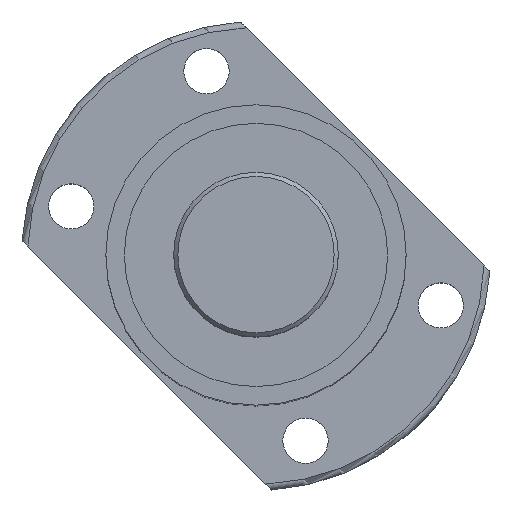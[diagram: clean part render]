
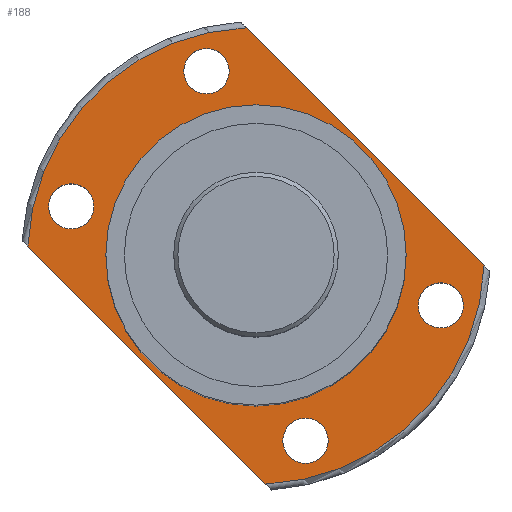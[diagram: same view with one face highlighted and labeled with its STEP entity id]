
A CAD part, top view. The second image highlights one B-rep face of the part: STEP entity #188.
In plain terms, the highlighted planar face has unit normal (0, 0, 1) as drawn and (1, 0, 0) by its records, which use the part's own axes.
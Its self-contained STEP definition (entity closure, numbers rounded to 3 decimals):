
#123=LINE('',#1357,#131);
#124=LINE('',#1362,#132);
#131=VECTOR('',#1021,1.);
#132=VECTOR('',#1024,1.);
#153=PLANE('',#856);
#188=ADVANCED_FACE('',(#289,#290,#291,#292,#293,#294),#153,.T.);
#289=FACE_BOUND('',#390,.T.);
#290=FACE_BOUND('',#391,.T.);
#291=FACE_BOUND('',#392,.T.);
#292=FACE_BOUND('',#393,.T.);
#293=FACE_BOUND('',#394,.T.);
#294=FACE_BOUND('',#395,.T.);
#390=EDGE_LOOP('',(#506));
#391=EDGE_LOOP('',(#507));
#392=EDGE_LOOP('',(#508));
#393=EDGE_LOOP('',(#509));
#394=EDGE_LOOP('',(#510));
#395=EDGE_LOOP('',(#511,#512,#513,#514));
#506=ORIENTED_EDGE('',*,*,#676,.F.);
#507=ORIENTED_EDGE('',*,*,#704,.F.);
#508=ORIENTED_EDGE('',*,*,#705,.F.);
#509=ORIENTED_EDGE('',*,*,#706,.F.);
#510=ORIENTED_EDGE('',*,*,#707,.F.);
#511=ORIENTED_EDGE('',*,*,#708,.T.);
#512=ORIENTED_EDGE('',*,*,#709,.T.);
#513=ORIENTED_EDGE('',*,*,#710,.T.);
#514=ORIENTED_EDGE('',*,*,#711,.T.);
#610=VERTEX_POINT('',#1160);
#638=VERTEX_POINT('',#1350);
#639=VERTEX_POINT('',#1352);
#640=VERTEX_POINT('',#1354);
#641=VERTEX_POINT('',#1356);
#642=VERTEX_POINT('',#1358);
#643=VERTEX_POINT('',#1359);
#644=VERTEX_POINT('',#1361);
#645=VERTEX_POINT('',#1363);
#676=EDGE_CURVE('',#610,#610,#750,.T.);
#704=EDGE_CURVE('',#638,#638,#772,.T.);
#705=EDGE_CURVE('',#639,#639,#773,.T.);
#706=EDGE_CURVE('',#640,#640,#774,.T.);
#707=EDGE_CURVE('',#641,#641,#775,.T.);
#708=EDGE_CURVE('',#642,#643,#123,.T.);
#709=EDGE_CURVE('',#643,#644,#776,.T.);
#710=EDGE_CURVE('',#644,#645,#124,.T.);
#711=EDGE_CURVE('',#645,#642,#777,.T.);
#750=CIRCLE('',#808,36.5);
#772=CIRCLE('',#850,5.5);
#773=CIRCLE('',#851,5.5);
#774=CIRCLE('',#852,5.5);
#775=CIRCLE('',#853,5.5);
#776=CIRCLE('',#854,55.5);
#777=CIRCLE('',#855,55.5);
#808=AXIS2_PLACEMENT_3D('',#1159,#925,#926);
#850=AXIS2_PLACEMENT_3D('',#1349,#1013,#1014);
#851=AXIS2_PLACEMENT_3D('',#1351,#1015,#1016);
#852=AXIS2_PLACEMENT_3D('',#1353,#1017,#1018);
#853=AXIS2_PLACEMENT_3D('',#1355,#1019,#1020);
#854=AXIS2_PLACEMENT_3D('',#1360,#1022,#1023);
#855=AXIS2_PLACEMENT_3D('',#1364,#1025,#1026);
#856=AXIS2_PLACEMENT_3D('',#1365,#1027,#1028);
#925=DIRECTION('',(1.,0.,0.));
#926=DIRECTION('',(0.,0.,-1.));
#1013=DIRECTION('',(1.,0.,0.));
#1014=DIRECTION('',(0.,-0.707,-0.707));
#1015=DIRECTION('',(1.,0.,0.));
#1016=DIRECTION('',(0.,-0.707,-0.707));
#1017=DIRECTION('',(1.,0.,0.));
#1018=DIRECTION('',(0.,-0.707,-0.707));
#1019=DIRECTION('',(1.,0.,0.));
#1020=DIRECTION('',(0.,-0.707,-0.707));
#1021=DIRECTION('',(0.,-0.707,-0.707));
#1022=DIRECTION('',(1.,0.,0.));
#1023=DIRECTION('',(0.,0.,-1.));
#1024=DIRECTION('',(0.,0.707,0.707));
#1025=DIRECTION('',(1.,0.,0.));
#1026=DIRECTION('',(0.,0.,-1.));
#1027=DIRECTION('',(1.,0.,0.));
#1028=DIRECTION('',(0.,-0.707,-0.707));
#1159=CARTESIAN_POINT('',(106.57,56.263,0.));
#1160=CARTESIAN_POINT('',(106.57,56.263,-36.5));
#1349=CARTESIAN_POINT('',(106.57,101.179,12.035));
#1350=CARTESIAN_POINT('',(106.57,97.289,8.146));
#1351=CARTESIAN_POINT('',(106.57,68.298,44.916));
#1352=CARTESIAN_POINT('',(106.57,64.409,41.026));
#1353=CARTESIAN_POINT('',(106.57,44.228,-44.916));
#1354=CARTESIAN_POINT('',(106.57,40.339,-48.805));
#1355=CARTESIAN_POINT('',(106.57,11.347,-12.035));
#1356=CARTESIAN_POINT('',(106.57,7.458,-15.924));
#1357=CARTESIAN_POINT('',(106.57,29.747,26.517));
#1358=CARTESIAN_POINT('',(106.57,58.677,55.447));
#1359=CARTESIAN_POINT('',(106.57,0.816,-2.414));
#1360=CARTESIAN_POINT('',(106.57,56.263,0.));
#1361=CARTESIAN_POINT('',(106.57,53.849,-55.447));
#1362=CARTESIAN_POINT('',(106.57,82.78,-26.517));
#1363=CARTESIAN_POINT('',(106.57,111.71,2.414));
#1364=CARTESIAN_POINT('',(106.57,56.263,0.));
#1365=CARTESIAN_POINT('',(106.57,96.568,-40.305));
